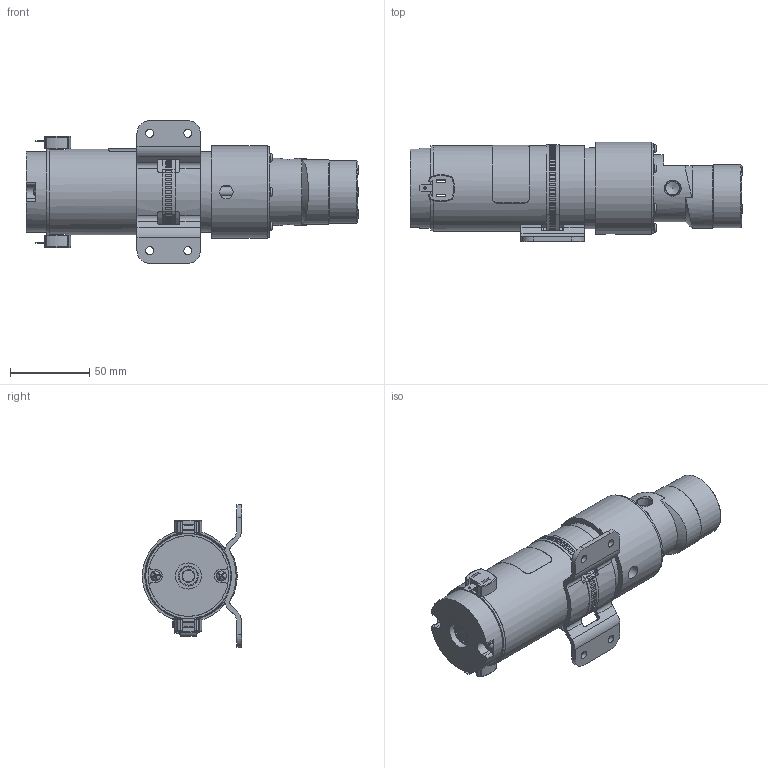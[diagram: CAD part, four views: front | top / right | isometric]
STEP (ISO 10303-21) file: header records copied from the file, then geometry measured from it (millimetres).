
FILE_DESCRIPTION (( 'STEP AP214' ), '1' );
FILE_NAME ('PD08-PM-0.STEP', '2017-03-01T22:09:41', ( '' ), ( '' ), 'SwSTEP 2.0', 'SolidWorks 2015', '' );
FILE_SCHEMA (( 'AUTOMOTIVE_DESIGN' ));
Length unit declared in the file: millimetre
Products named in the file (17): PD03-SC-0; PD07-MA-0; PD07-SC-0_96710A258; PD07-MB-0; PD07-MO-0; Copy of mo0166^PD07-MO-0; PD08-PM-0; bAND^PD08-PM-0; Copy of MB0110^PD08-PM-0; PD04-PU-0; PD03-SC-1; PD03-EP-0; PD04-BO-0; PD04-BB-0; bb0018^PD04-BB-0; PD03-CU-0; PD03-FL-0
Assembly tree (32 placements, depth 5):
  PD08-PM-0
    PD07-MA-0
      PD07-MO-0
        Copy of mo0166^PD07-MO-0
      PD07-MB-0
      PD07-SC-0_96710A258  x4
    PD04-PU-0
      PD03-SC-0  x6
      PD03-FL-0
      PD03-CU-0
      PD04-BO-0
        PD04-BB-0
          bb0018^PD04-BB-0
      PD03-EP-0
      PD03-SC-1  x3
    PD03-SC-0  x6
    Copy of MB0110^PD08-PM-0
    bAND^PD08-PM-0
Bounding box: 209.25 x 62.6 x 90 mm (x, y, z)
Volume: 136179.3 mm3; surface area: 87496.8 mm2
Topology: 26 solids, 60 shells, 716 faces, 1884 edges, 1268 vertices
Faces by surface type: plane 444, cylinder 182, torus 54, cone 25, sphere 10, bspline 1
Full cylindrical faces by diameter (mm): 1.422 x2, 2.5 x6, 2.705 x4, 3.2 x9, 3.454 x2, 3.871 x1, 4 x4, 4.2 x3, 5 x4, 5.5 x15, 6 x3, 6.336 x1, 6.858 x4, 7.997 x1, 8.002 x1, 8.433 x2, 8.5 x1, 11.151 x1, 11.43 x1, 12.7 x2, 16.51 x2, 25.4 x2, 27.1 x1, 27.14 x1, 29.8 x2, 39.75 x1, 42.25 x1, 50.8 x2, 53.657 x1, 53.975 x1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
Entity records: 23083 total; most frequent: CARTESIAN_POINT 4516, DIRECTION 3536, ORIENTED_EDGE 3089, EDGE_CURVE 1654, AXIS2_PLACEMENT_3D 1278, VERTEX_POINT 1177, VECTOR 980, LINE 980
